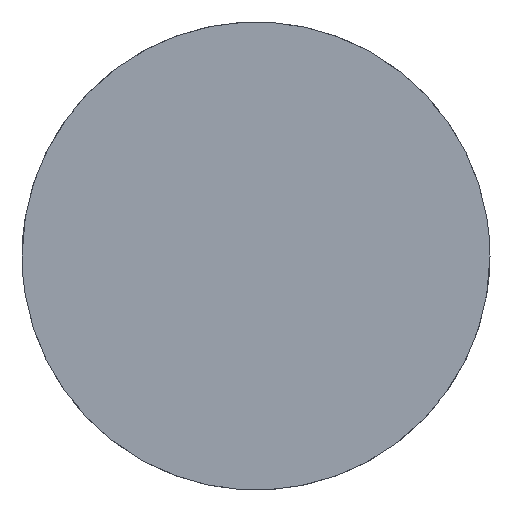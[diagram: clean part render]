
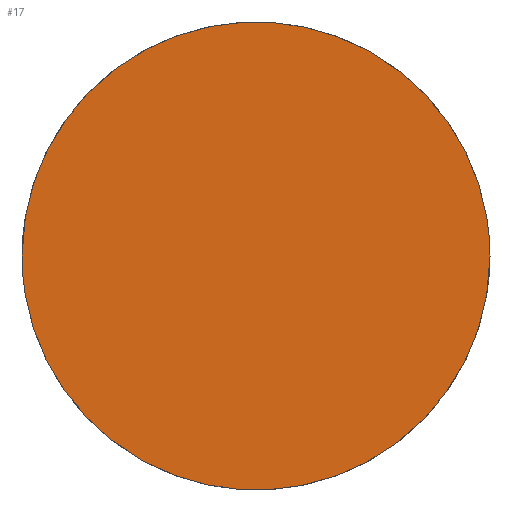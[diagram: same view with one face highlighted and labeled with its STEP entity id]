
A CAD part, front view. The second image highlights one B-rep face of the part: STEP entity #17.
In plain terms, the highlighted planar face has unit normal (0, -1, 0).
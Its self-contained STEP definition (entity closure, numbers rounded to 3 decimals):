
#17=ADVANCED_FACE('',(#21),#56,.T.);
#21=FACE_OUTER_BOUND('',#25,.T.);
#25=EDGE_LOOP('',(#33,#34));
#33=ORIENTED_EDGE('',*,*,#44,.F.);
#34=ORIENTED_EDGE('',*,*,#41,.F.);
#41=EDGE_CURVE('',#52,#54,#47,.T.);
#44=EDGE_CURVE('',#54,#52,#50,.T.);
#47=(
BOUNDED_CURVE()
B_SPLINE_CURVE(2,(#122,#123,#124,#125,#126),.UNSPECIFIED.,.F.,.F.)
B_SPLINE_CURVE_WITH_KNOTS((3,2,3),(-15.708,-11.781,-7.854),
 .UNSPECIFIED.)
CURVE()
GEOMETRIC_REPRESENTATION_ITEM()
RATIONAL_B_SPLINE_CURVE((1.,0.707,1.,0.707,1.))
REPRESENTATION_ITEM('')
);
#50=(
BOUNDED_CURVE()
B_SPLINE_CURVE(2,(#134,#135,#136,#137,#138),.UNSPECIFIED.,.F.,.F.)
B_SPLINE_CURVE_WITH_KNOTS((3,2,3),(-7.854,-3.927,
0.),.UNSPECIFIED.)
CURVE()
GEOMETRIC_REPRESENTATION_ITEM()
RATIONAL_B_SPLINE_CURVE((1.,0.707,1.,0.707,1.))
REPRESENTATION_ITEM('')
);
#52=VERTEX_POINT('',#112);
#54=VERTEX_POINT('',#114);
#56=PLANE('',#80);
#80=AXIS2_PLACEMENT_3D('',#100,#85,$);
#85=DIRECTION('',(0.,-1.,0.));
#100=CARTESIAN_POINT('',(120.941,133.994,433.671));
#112=CARTESIAN_POINT('',(177.983,133.994,440.772));
#114=CARTESIAN_POINT('',(172.983,133.994,440.772));
#122=CARTESIAN_POINT('',(177.983,133.994,440.772));
#123=CARTESIAN_POINT('',(177.983,133.994,438.272));
#124=CARTESIAN_POINT('',(175.483,133.994,438.272));
#125=CARTESIAN_POINT('',(172.983,133.994,438.272));
#126=CARTESIAN_POINT('',(172.983,133.994,440.772));
#134=CARTESIAN_POINT('',(172.983,133.994,440.772));
#135=CARTESIAN_POINT('',(172.983,133.994,443.272));
#136=CARTESIAN_POINT('',(175.483,133.994,443.272));
#137=CARTESIAN_POINT('',(177.983,133.994,443.272));
#138=CARTESIAN_POINT('',(177.983,133.994,440.772));
